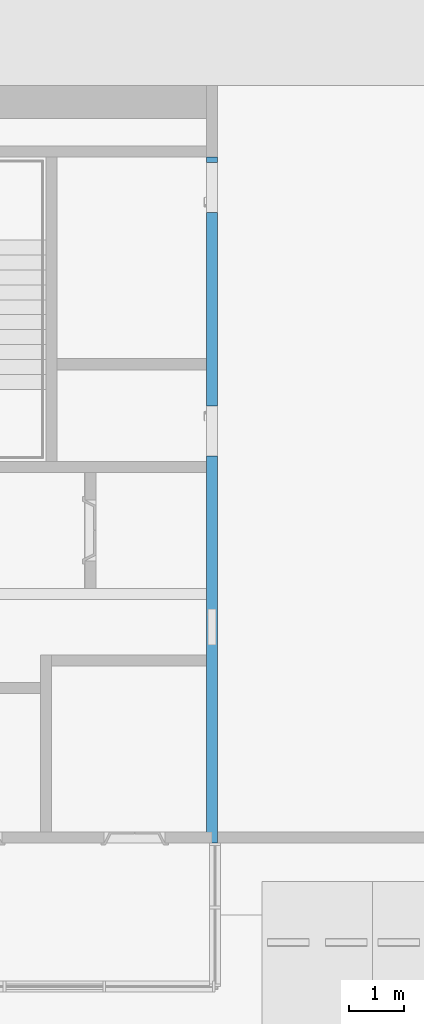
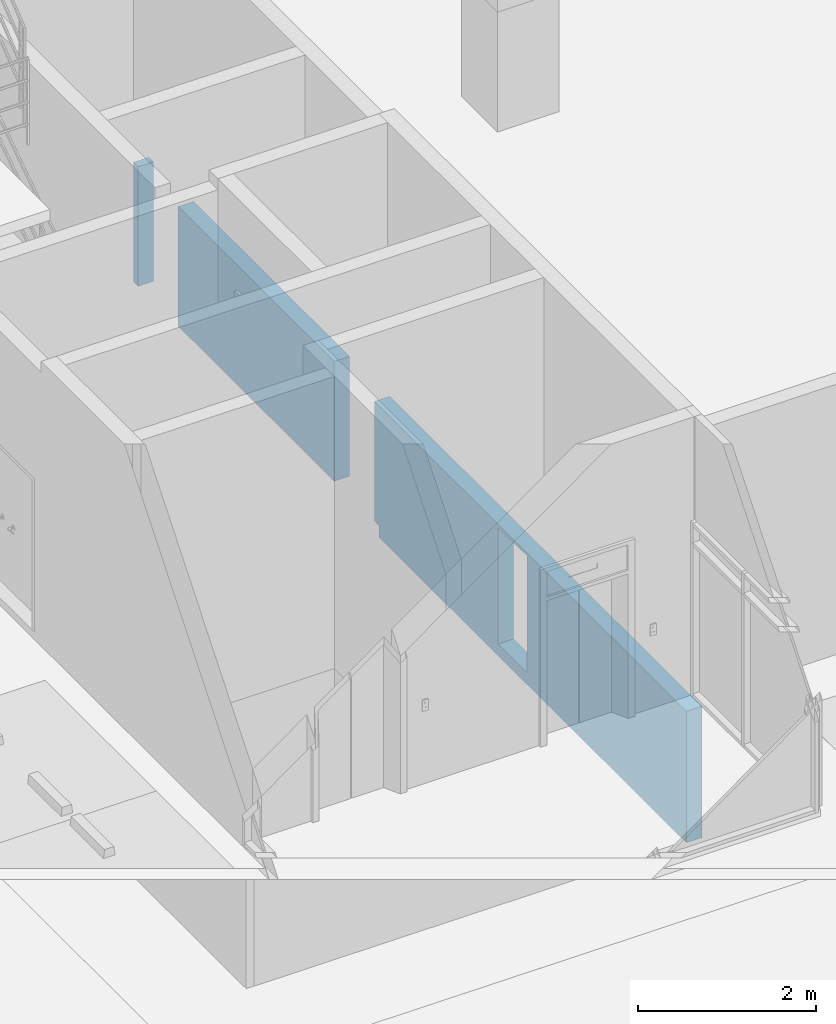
# One storey, part 22 of 30: 1 wall, 3 openings.
"""IFC2X3 building model written with IfcOpenShell, lengths in millimetres."""

from ifc_helpers import new_model, entity, si_unit, converted_unit, derived_unit, direction, frame, frame_2d, origin, place, context, subcontext, project, spatial, rectangle, extrude, faceted_brep, material, layer, layer_set, type_object, element, save


model = new_model("IFC2X3")

# Units and contexts
model_context = context("Model", 3, precision=0.01, world=origin(), true_north=direction((6.123031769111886e-17, 1.0)))
body_context = subcontext(model_context, "Body", "Model", "MODEL_VIEW")
ifc_project = project(units=[si_unit("LENGTHUNIT", "METRE", prefix="MILLI"), si_unit("AREAUNIT", "SQUARE_METRE"), si_unit("VOLUMEUNIT", "CUBIC_METRE"), converted_unit("PLANEANGLEUNIT", "DEGREE", entity("IfcRatioMeasure", 0.017453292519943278), si_unit("PLANEANGLEUNIT", "RADIAN"), dimensions=[0, 0, 0, 0, 0, 0, 0]), si_unit("MASSUNIT", "GRAM", prefix="KILO"), derived_unit("MASSDENSITYUNIT", [(si_unit("MASSUNIT", "GRAM", prefix="KILO"), 1), (si_unit("LENGTHUNIT", "METRE"), -3)]), derived_unit("MOMENTOFINERTIAUNIT", [(si_unit("LENGTHUNIT", "METRE"), 4)]), si_unit("TIMEUNIT", "SECOND"), si_unit("FREQUENCYUNIT", "HERTZ"), si_unit("THERMODYNAMICTEMPERATUREUNIT", "DEGREE_CELSIUS"), derived_unit("THERMALTRANSMITTANCEUNIT", [(si_unit("MASSUNIT", "GRAM", prefix="KILO"), 1), (si_unit("THERMODYNAMICTEMPERATUREUNIT", "KELVIN"), -1), (si_unit("TIMEUNIT", "SECOND"), -3)]), derived_unit("VOLUMETRICFLOWRATEUNIT", [(si_unit("LENGTHUNIT", "METRE"), 3), (si_unit("TIMEUNIT", "SECOND"), -1)]), derived_unit("MASSFLOWRATEUNIT", [(si_unit("MASSUNIT", "GRAM", prefix="KILO"), 1), (si_unit("TIMEUNIT", "SECOND"), -1)]), derived_unit("ROTATIONALFREQUENCYUNIT", [(si_unit("TIMEUNIT", "SECOND"), -1)]), si_unit("ELECTRICCURRENTUNIT", "AMPERE"), si_unit("ELECTRICVOLTAGEUNIT", "VOLT"), si_unit("POWERUNIT", "WATT"), si_unit("FORCEUNIT", "NEWTON", prefix="KILO"), si_unit("ILLUMINANCEUNIT", "LUX"), si_unit("LUMINOUSFLUXUNIT", "LUMEN"), si_unit("LUMINOUSINTENSITYUNIT", "CANDELA"), derived_unit("USERDEFINED", [(si_unit("MASSUNIT", "GRAM", prefix="KILO"), -1), (si_unit("LENGTHUNIT", "METRE"), -2), (si_unit("TIMEUNIT", "SECOND"), 3), (si_unit("LUMINOUSFLUXUNIT", "LUMEN"), 1)]), derived_unit("SOUNDPOWERUNIT", [(si_unit("MASSUNIT", "GRAM", prefix="KILO"), 1), (si_unit("LENGTHUNIT", "METRE"), 2), (si_unit("TIMEUNIT", "SECOND"), -3)]), derived_unit("SOUNDPRESSUREUNIT", [(si_unit("MASSUNIT", "GRAM", prefix="KILO"), 1), (si_unit("LENGTHUNIT", "METRE"), -1), (si_unit("TIMEUNIT", "SECOND"), -2)]), derived_unit("LINEARVELOCITYUNIT", [(si_unit("LENGTHUNIT", "METRE"), 1), (si_unit("TIMEUNIT", "SECOND"), -1)]), si_unit("PRESSUREUNIT", "PASCAL"), derived_unit("USERDEFINED", [(si_unit("LENGTHUNIT", "METRE"), -2), (si_unit("MASSUNIT", "GRAM", prefix="KILO"), 1), (si_unit("TIMEUNIT", "SECOND"), -2)]), derived_unit("LINEARFORCEUNIT", [(si_unit("MASSUNIT", "GRAM", prefix="KILO"), 1), (si_unit("LENGTHUNIT", "METRE"), 1), (si_unit("TIMEUNIT", "SECOND"), -2), (si_unit("LENGTHUNIT", "METRE"), -1)]), derived_unit("PLANARFORCEUNIT", [(si_unit("MASSUNIT", "GRAM", prefix="KILO"), 1), (si_unit("LENGTHUNIT", "METRE"), 1), (si_unit("TIMEUNIT", "SECOND"), -2), (si_unit("LENGTHUNIT", "METRE"), -2)])], contexts=[model_context])

# Site, building, storey
site_placement = place(None, frame((-14167.972527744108, -657.2125860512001, 0.0)))
site = spatial("IfcSite", under=ifc_project, at=site_placement, Name="Default", CompositionType="ELEMENT")
building_placement = place(site_placement, origin())
building = spatial("IfcBuilding", under=site, at=building_placement, Name="Sample Building", CompositionType="ELEMENT")
storey_placement = place(building_placement, frame((0.0, 0.0, -10100.0)))
storey = spatial("IfcBuildingStorey", under=building, at=storey_placement, Name="지하2층", CompositionType="ELEMENT", Elevation=-10100.0)

# Wall, openings
ifc_material = material(Name="KBIMS-콘크리트")
ifc_layer = layer(ifc_material, 200.0)
ifc_layer_set = layer_set([ifc_layer], Name="기본 벽:WA111-철근콘크리트구조 벽 200mm_CW1")
wall_type = type_object("IfcWallType", Name="기본 벽:WA111-철근콘크리트구조 벽 200mm_CW1", PredefinedType="STANDARD", material=ifc_layer_set)
wall_placement = place(storey_placement, frame((35867.97249113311, 15557.21230798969, -1800.0), z_axis=(0.0, 0.0, 1.0), x_axis=(0.0, 1.0, 0.0)))
wall = element("IfcWall", 1, at=wall_placement, inside=storey, type_object=wall_type, Name="기본 벽:WA111-철근콘크리트구조 벽 200mm_CW1", ObjectType="기본 벽:WA111-철근콘크리트구조 벽 200mm_CW1", context=body_context, shape_type="Brep", body=[
    faceted_brep([(7000.0, -100.0, 160.0), (7000.0, -100.0, 1800.0), (0.0, -100.0, 1800.0), (0.0, -100.0, 160.0), (0.0, -100.0, 0.0), (6900.0, -100.0, 0.0), (6900.0, -100.0, 160.0), (3575.0, -100.0, 160.0), (3575.0, -100.0, 1760.0), (4225.0, -100.0, 1760.0), (4225.0, -100.0, 160.0), (0.0, 100.0, 0.0), (6900.0, 100.0, 0.0), (6900.0, 100.0, 160.0), (7000.0, 100.0, 160.0), (0.0, 100.0, 1800.0), (7000.0, 100.0, 1800.0), (3575.0, 100.0, 160.0), (3575.0, 100.0, 1760.0), (4225.0, 100.0, 1760.0), (4225.0, 100.0, 160.0)], [[[0, 1, 2, 3, 4, 5, 6], [7, 8, 9, 10]], [[4, 11, 12, 5]], [[6, 13, 14, 0]], [[15, 11, 4, 3, 2]], [[13, 6, 5, 12]], [[1, 0, 14, 16]], [[8, 7, 17, 18]], [[10, 9, 19, 20]], [[7, 10, 20, 17]], [[8, 18, 19, 9]], [[1, 16, 15, 2]], [[11, 15, 16, 14, 13, 12], [18, 17, 20, 19]]]),
    faceted_brep([(12300.0, 100.0, 160.0), (12300.0, 100.0, 1800.0), (12400.0, 100.0, 1800.0), (12400.0, 100.0, 160.0), (12400.0, -100.0, 1800.0), (12400.0, -100.0, 160.0), (12300.0, -100.0, 160.0), (12300.0, -100.0, 1800.0)], [[[0, 1, 2, 3]], [[2, 4, 5, 3]], [[6, 7, 1, 0]], [[5, 6, 0, 3]], [[1, 7, 4, 2]], [[7, 6, 5, 4]]]),
    faceted_brep([(11400.0, -100.0, 1800.0), (11400.0, 100.0, 1800.0), (7900.0, 100.0, 1800.0), (7900.0, -100.0, 1800.0), (11400.0, -100.0, 160.0), (11400.0, 100.0, 160.0), (7900.0, -100.0, 160.0), (7900.0, 100.0, 160.0)], [[[0, 1, 2, 3]], [[0, 4, 5, 1]], [[6, 3, 2, 7]], [[4, 6, 7, 5]], [[1, 5, 7, 2]], [[4, 0, 3, 6]]]),
])
opening_1_placement = place(wall_placement, frame((11400.0, -100.0, 160.0)))
element("IfcOpeningElement", 2, at=opening_1_placement, cuts=wall, Name="DR111-외여닫이문(철재, 일반):DR111-외여닫이문(철재, 일반) 900x2100mm:1", ObjectType="Opening", context=body_context, shape_type="SweptSolid", body=[
    extrude(rectangle(XDim=2099.999999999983, YDim=900.0000000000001, at=frame_2d((1049.999999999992, 450.00000000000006), x_axis=(1.0, 0.0))), frame((0.0, 0.0, 0.0), z_axis=(0.0, 1.0, 0.0), x_axis=(0.0, 0.0, 1.0)), (0.0, 0.0, 1.0), 200.0),
])
opening_2_placement = place(wall_placement, frame((7000.0, -100.0, 160.0)))
element("IfcOpeningElement", 3, at=opening_2_placement, cuts=wall, Name="DR111-외여닫이문(철재, 일반):DR111-외여닫이문(철재, 일반) 900x2100mm:1", ObjectType="Opening", context=body_context, shape_type="SweptSolid", body=[
    extrude(rectangle(XDim=2099.999999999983, YDim=900.0000000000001, at=frame_2d((1049.999999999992, 450.00000000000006), x_axis=(1.0, 0.0))), frame((0.0, 0.0, 0.0), z_axis=(0.0, 1.0, 0.0), x_axis=(0.0, 0.0, 1.0)), (0.0, 0.0, 1.0), 200.0),
])
opening_3_placement = place(wall_placement, frame((3575.0, -100.0, 160.0)))
element("IfcOpeningElement", 4, at=opening_3_placement, cuts=wall, Name="DR872-샤프트 점검구(스테인리스 스틸):DR872-샤프트 점검구(스테인리스 스틸)_650x1600:1", ObjectType="Opening", context=body_context, shape_type="SweptSolid", body=[
    extrude(rectangle(XDim=1600.0, YDim=649.9999999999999, at=frame_2d((800.0, 325.00000000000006), x_axis=(1.0, 0.0))), frame((0.0, 0.0, 0.0), z_axis=(0.0, 1.0, 0.0), x_axis=(0.0, 0.0, 1.0)), (0.0, 0.0, 1.0), 200.0),
])

save(model, "model.ifc")
